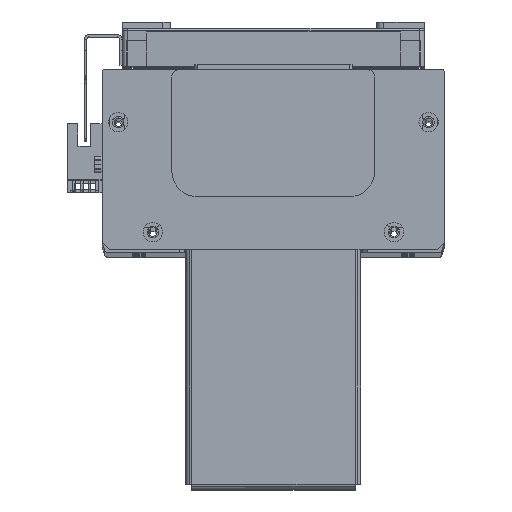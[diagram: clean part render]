
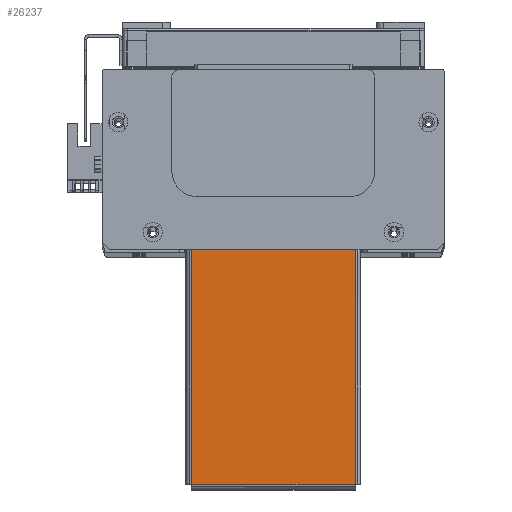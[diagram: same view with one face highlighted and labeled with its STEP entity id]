
A CAD part, top view. The second image highlights one B-rep face of the part: STEP entity #26237.
In plain terms, the highlighted planar face has unit normal (0, 0, 1) as drawn and (0, -1, 0) by its records, which use the part's own axes.
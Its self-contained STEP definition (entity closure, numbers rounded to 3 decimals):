
#1416 = VECTOR ( 'NONE', #12620, 1000. ) ;
#1421 = VECTOR ( 'NONE', #12674, 1000. ) ;
#1440 = LINE ( 'NONE', #12665, #1421 ) ;
#1446 = VECTOR ( 'NONE', #12548, 1000. ) ;
#1454 = LINE ( 'NONE', #12544, #1446 ) ;
#1457 = LINE ( 'NONE', #12612, #1416 ) ;
#1474 = VECTOR ( 'NONE', #12680, 1000. ) ;
#1526 = LINE ( 'NONE', #12679, #1474 ) ;
#8161 = CARTESIAN_POINT ( 'NONE',  ( 0., -1.5, 0. ) ) ;
#8198 = PLANE ( 'NONE',  #28680 ) ;
#8199 = DIRECTION ( 'NONE',  ( 0., 0., 1. ) ) ;
#8203 = DIRECTION ( 'NONE',  ( 0., 1., 0. ) ) ;
#12544 = CARTESIAN_POINT ( 'NONE',  ( -2., -1.5, 34.5 ) ) ;
#12548 = DIRECTION ( 'NONE',  ( 0., 0., -1. ) ) ;
#12612 = CARTESIAN_POINT ( 'NONE',  ( -94.763, -1.5, 32.293 ) ) ;
#12620 = DIRECTION ( 'NONE',  ( 0., 0., -1. ) ) ;
#12665 = CARTESIAN_POINT ( 'NONE',  ( 94.793, -1.5, 32.263 ) ) ;
#12674 = DIRECTION ( 'NONE',  ( -1., 0., 0. ) ) ;
#12679 = CARTESIAN_POINT ( 'NONE',  ( -94.793, -1.5, -32.263 ) ) ;
#12680 = DIRECTION ( 'NONE',  ( 1., 0., 0. ) ) ;
#23000 = EDGE_LOOP ( 'NONE', ( #53922, #53956, #53924, #53921 ) ) ;
#26237 = ADVANCED_FACE ( 'NONE', ( #48013 ), #8198, .F. ) ;
#28680 = AXIS2_PLACEMENT_3D ( 'NONE', #8161, #8203, #8199 ) ;
#29458 = EDGE_CURVE ( 'NONE', #59272, #59280, #1454, .T. ) ;
#29476 = EDGE_CURVE ( 'NONE', #59335, #59433, #1457, .T. ) ;
#29482 = EDGE_CURVE ( 'NONE', #59272, #59335, #1440, .T. ) ;
#29512 = EDGE_CURVE ( 'NONE', #59433, #59280, #1526, .T. ) ;
#47238 = CARTESIAN_POINT ( 'NONE',  ( -2., -1.5, -32.263 ) ) ;
#47250 = CARTESIAN_POINT ( 'NONE',  ( -2., -1.5, 32.263 ) ) ;
#47325 = CARTESIAN_POINT ( 'NONE',  ( -94.763, -1.5, 32.263 ) ) ;
#47346 = CARTESIAN_POINT ( 'NONE',  ( -94.763, -1.5, -32.263 ) ) ;
#48013 = FACE_OUTER_BOUND ( 'NONE', #23000, .T. ) ;
#53921 = ORIENTED_EDGE ( 'NONE', *, *, #29476, .T. ) ;
#53922 = ORIENTED_EDGE ( 'NONE', *, *, #29512, .T. ) ;
#53924 = ORIENTED_EDGE ( 'NONE', *, *, #29482, .T. ) ;
#53956 = ORIENTED_EDGE ( 'NONE', *, *, #29458, .F. ) ;
#59272 = VERTEX_POINT ( 'NONE', #47250 ) ;
#59280 = VERTEX_POINT ( 'NONE', #47238 ) ;
#59335 = VERTEX_POINT ( 'NONE', #47325 ) ;
#59433 = VERTEX_POINT ( 'NONE', #47346 ) ;
